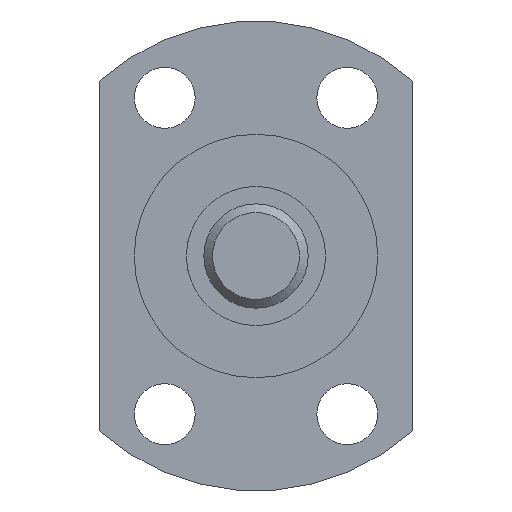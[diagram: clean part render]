
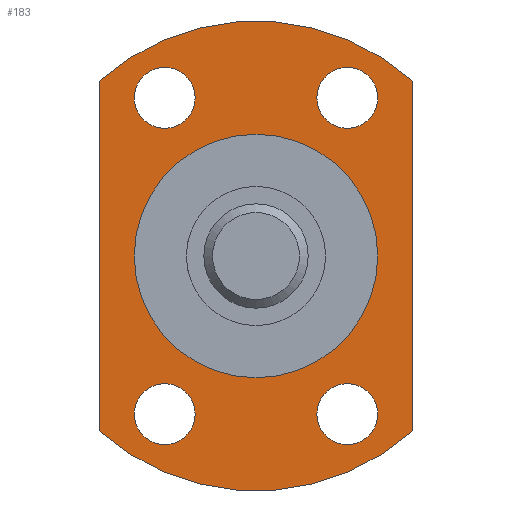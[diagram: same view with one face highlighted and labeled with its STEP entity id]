
A CAD part, front view. The second image highlights one B-rep face of the part: STEP entity #183.
In plain terms, the highlighted planar face has unit normal (0, -1, 0) as drawn and (0, 0, 1) by its records, which use the part's own axes.
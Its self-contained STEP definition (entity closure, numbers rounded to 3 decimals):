
#137=FACE_BOUND('',#280,.T.);
#138=FACE_BOUND('',#281,.T.);
#139=FACE_BOUND('',#282,.T.);
#140=FACE_BOUND('',#283,.T.);
#141=FACE_BOUND('',#284,.T.);
#142=FACE_BOUND('',#285,.T.);
#183=ADVANCED_FACE('',(#137,#138,#139,#140,#141,#142),#211,.T.);
#211=PLANE('',#682);
#280=EDGE_LOOP('',(#431));
#281=EDGE_LOOP('',(#432));
#282=EDGE_LOOP('',(#433));
#283=EDGE_LOOP('',(#434));
#284=EDGE_LOOP('',(#435));
#285=EDGE_LOOP('',(#436,#437,#438,#439));
#315=LINE('',#3562,#334);
#316=LINE('',#3566,#335);
#334=VECTOR('',#832,1.);
#335=VECTOR('',#835,1.);
#431=ORIENTED_EDGE('',*,*,#570,.F.);
#432=ORIENTED_EDGE('',*,*,#571,.F.);
#433=ORIENTED_EDGE('',*,*,#572,.F.);
#434=ORIENTED_EDGE('',*,*,#573,.F.);
#435=ORIENTED_EDGE('',*,*,#574,.F.);
#436=ORIENTED_EDGE('',*,*,#575,.F.);
#437=ORIENTED_EDGE('',*,*,#576,.T.);
#438=ORIENTED_EDGE('',*,*,#577,.F.);
#439=ORIENTED_EDGE('',*,*,#578,.T.);
#510=VERTEX_POINT('',#3550);
#511=VERTEX_POINT('',#3552);
#512=VERTEX_POINT('',#3554);
#513=VERTEX_POINT('',#3556);
#514=VERTEX_POINT('',#3558);
#515=VERTEX_POINT('',#3560);
#516=VERTEX_POINT('',#3561);
#517=VERTEX_POINT('',#3563);
#518=VERTEX_POINT('',#3565);
#570=EDGE_CURVE('',#510,#510,#612,.T.);
#571=EDGE_CURVE('',#511,#511,#613,.T.);
#572=EDGE_CURVE('',#512,#512,#614,.T.);
#573=EDGE_CURVE('',#513,#513,#615,.T.);
#574=EDGE_CURVE('',#514,#514,#616,.T.);
#575=EDGE_CURVE('',#515,#516,#617,.T.);
#576=EDGE_CURVE('',#515,#517,#315,.T.);
#577=EDGE_CURVE('',#518,#517,#618,.T.);
#578=EDGE_CURVE('',#518,#516,#316,.T.);
#612=CIRCLE('',#675,1.75);
#613=CIRCLE('',#676,1.75);
#614=CIRCLE('',#677,1.75);
#615=CIRCLE('',#678,1.75);
#616=CIRCLE('',#679,7.);
#617=CIRCLE('',#680,13.5);
#618=CIRCLE('',#681,13.5);
#675=AXIS2_PLACEMENT_3D('',#3549,#820,#821);
#676=AXIS2_PLACEMENT_3D('',#3551,#822,#823);
#677=AXIS2_PLACEMENT_3D('',#3553,#824,#825);
#678=AXIS2_PLACEMENT_3D('',#3555,#826,#827);
#679=AXIS2_PLACEMENT_3D('',#3557,#828,#829);
#680=AXIS2_PLACEMENT_3D('',#3559,#830,#831);
#681=AXIS2_PLACEMENT_3D('',#3564,#833,#834);
#682=AXIS2_PLACEMENT_3D('',#3567,#836,#837);
#820=DIRECTION('',(0.,0.,1.));
#821=DIRECTION('',(1.,0.,0.));
#822=DIRECTION('',(0.,0.,1.));
#823=DIRECTION('',(1.,0.,0.));
#824=DIRECTION('',(0.,0.,1.));
#825=DIRECTION('',(1.,0.,0.));
#826=DIRECTION('',(0.,0.,1.));
#827=DIRECTION('',(1.,0.,0.));
#828=DIRECTION('',(0.,0.,1.));
#829=DIRECTION('',(1.,0.,0.));
#830=DIRECTION('',(0.,0.,-1.));
#831=DIRECTION('',(1.,0.,0.));
#832=DIRECTION('',(0.,-1.,0.));
#833=DIRECTION('',(0.,0.,-1.));
#834=DIRECTION('',(1.,0.,0.));
#835=DIRECTION('',(0.,1.,0.));
#836=DIRECTION('',(0.,0.,1.));
#837=DIRECTION('',(1.,0.,0.));
#3549=CARTESIAN_POINT('',(-5.25,-9.093,4.));
#3550=CARTESIAN_POINT('',(-3.5,-9.093,4.));
#3551=CARTESIAN_POINT('',(5.25,9.093,4.));
#3552=CARTESIAN_POINT('',(7.,9.093,4.));
#3553=CARTESIAN_POINT('',(5.25,-9.093,4.));
#3554=CARTESIAN_POINT('',(7.,-9.093,4.));
#3555=CARTESIAN_POINT('',(-5.25,9.093,4.));
#3556=CARTESIAN_POINT('',(-3.5,9.093,4.));
#3557=CARTESIAN_POINT('',(0.,0.,4.));
#3558=CARTESIAN_POINT('',(7.,0.,4.));
#3559=CARTESIAN_POINT('',(0.,0.,4.));
#3560=CARTESIAN_POINT('',(-9.,10.062,4.));
#3561=CARTESIAN_POINT('',(9.,10.062,4.));
#3562=CARTESIAN_POINT('',(-9.,0.,4.));
#3563=CARTESIAN_POINT('',(-9.,-10.062,4.));
#3564=CARTESIAN_POINT('',(0.,0.,4.));
#3565=CARTESIAN_POINT('',(9.,-10.062,4.));
#3566=CARTESIAN_POINT('',(9.,0.,4.));
#3567=CARTESIAN_POINT('',(0.,0.,4.));
